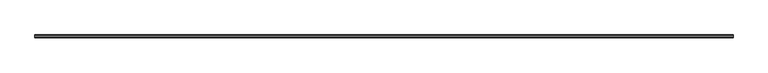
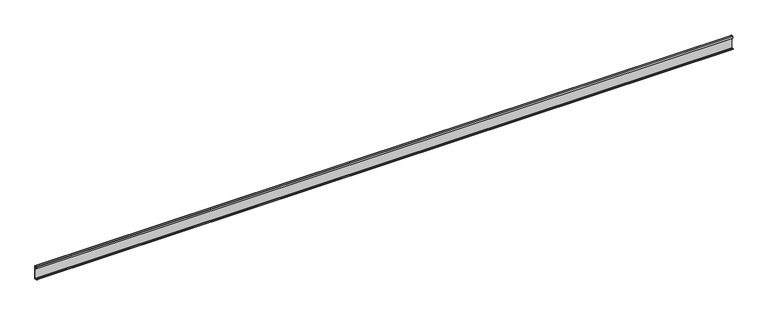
"""IFC4 building model written with IfcOpenShell, lengths in millimetres: proxy geometry, Weiku - Montante - Capa de folha 02.3.02.406 : Weiku - Montante - Capa de folha 02.3.02.406."""

from ifc_helpers import new_model, si_unit, point, frame, frame_2d, origin, place, context, project, spatial, polyline, circle_curve, trimmed, segment, composite_curve, outline, extrude, source, transform, mapped, element, save


def generic_models_a2b3079c(model_context):
    return source(origin(), model_context, "Body", "SweptSolid", [
        extrude(outline(composite_curve([segment(polyline([(-4.6421508, 2.2715508), (-3.3866, 1.016), (-1.6933, 1.016), (-1.6933, 25.684), (-3.3063, 25.684), (-3.3063, 22.3396), (-4.28, 22.3396), (-4.28, 26.2)]), True, "CONTINUOUS"), segment(trimmed(circle_curve(frame_2d((-3.78, 26.2)), 0.5), [point((-4.28, 26.2))], [point((-3.78, 26.7))], False, "CARTESIAN"), True, "CONTINUOUS"), segment(polyline([(-3.78, 26.7), (-0.5, 26.7)]), True, "CONTINUOUS"), segment(trimmed(circle_curve(frame_2d((-0.5, 26.2)), 0.5), [point((-0.5, 26.7))], [point((0.0, 26.2))], False, "CARTESIAN"), True, "CONTINUOUS"), segment(polyline([(0.0, 26.2), (0.0, 0.5)]), True, "CONTINUOUS"), segment(trimmed(circle_curve(frame_2d((-0.5, 0.5)), 0.5), [point((0.0, 0.5))], [point((-0.5, 0.0))], False, "CARTESIAN"), True, "CONTINUOUS"), segment(polyline([(-0.5, 0.0), (-4.7576991, 0.0)]), True, "CONTINUOUS"), segment(trimmed(circle_curve(frame_2d((-4.7576991, 0.7)), 0.7), [point((-4.7576991, 0.0))], [point((-5.3603515, 1.056104))], False, "CARTESIAN"), True, "CONTINUOUS"), segment(polyline([(-5.3603515, 1.056104), (-4.6421508, 2.2715508)]), True, "CONTINUOUS")], self_intersect=False)), frame((-682.8166667, 0.0, 0.0), z_axis=(1.0, 0.0, 0.0), x_axis=(0.0, 1.0, 0.0)), (0.0, 0.0, 1.0), 1365.6333333),
    ])


if __name__ == "__main__":
    model = new_model("IFC4")
    model_context = context("Model", 3, world=origin())
    ifc_project = project(units=[si_unit("LENGTHUNIT", "METRE", prefix="MILLI")], contexts=[model_context])
    site = spatial("IfcSite", under=ifc_project)
    building = spatial("IfcBuilding", under=site)
    placement = place(None, origin())
    generic_models_shape = generic_models_a2b3079c(model_context)
    element("IfcBuildingElementProxy", 1, Name="Weiku - Montante - Capa de folha 02.3.02.406 : Weiku - Montante - Capa de folha 02.3.02.406", ObjectType="Weiku - Montante - Capa de folha 02.3.02.406 : Weiku - Montante - Capa de folha 02.3.02.406", at=placement, inside=building, context=model_context, shape_type="MappedRepresentation", body=[
        mapped(generic_models_shape, transform((0.0, 0.0, 0.0), x_axis=(1.0, 0.0, 0.0), y_axis=(0.0, 1.0, 0.0), z_axis=(0.0, 0.0, 1.0))),
    ])
    save(model, "model.ifc")
